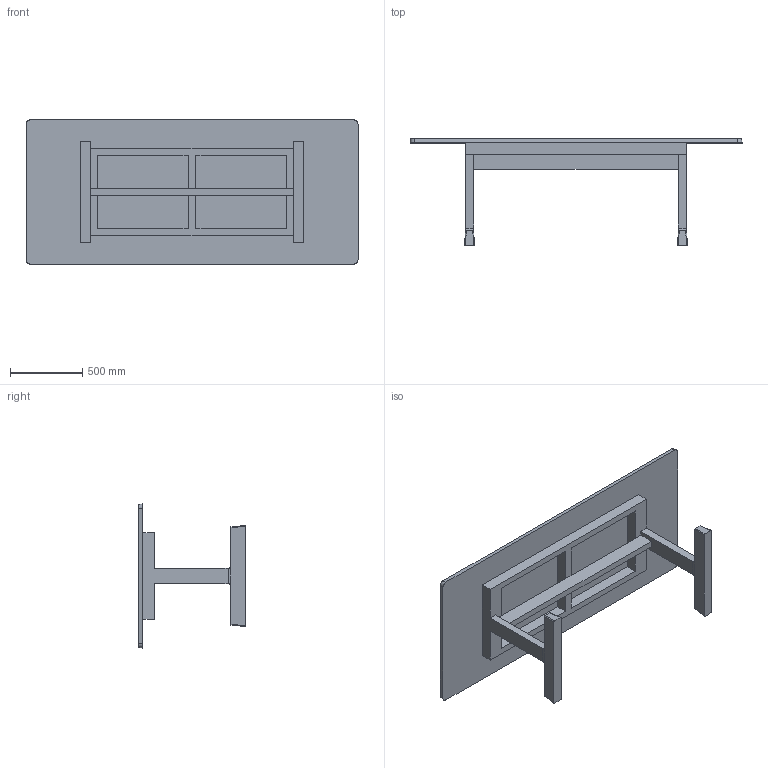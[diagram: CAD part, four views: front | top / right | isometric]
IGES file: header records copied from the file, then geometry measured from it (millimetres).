
Start section: SolidWorks IGES file using analytic representation for surfaces
Global section: file name: C:\Users\David.BDLE\Desktop\405FL Refectory Fixed Table_va\405FM Refectory Fixed Table_3D IGS.IGS; native system: SolidWorks 2016; preprocessor: SolidWorks 2016; author: David; date: 210614.154429; units: millimetre
Bounding box: 2300 x 740 x 1000 mm (x, y, z)
Surface area: 6652662 mm2 (no closed solid volume)
Topology: 0 solids, 0 shells, 67 faces, 840 edges, 840 vertices
Faces by surface type: bspline 47, revolution 20
